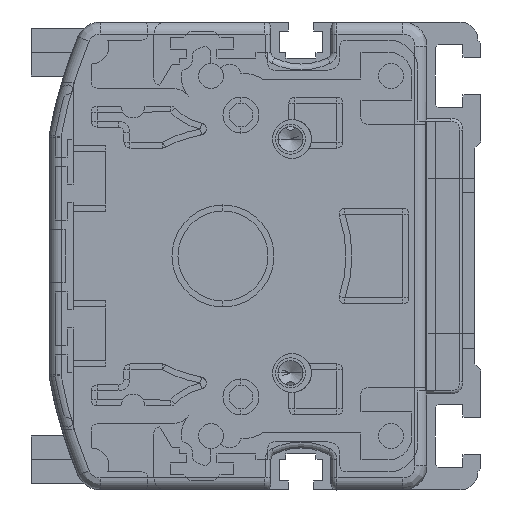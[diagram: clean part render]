
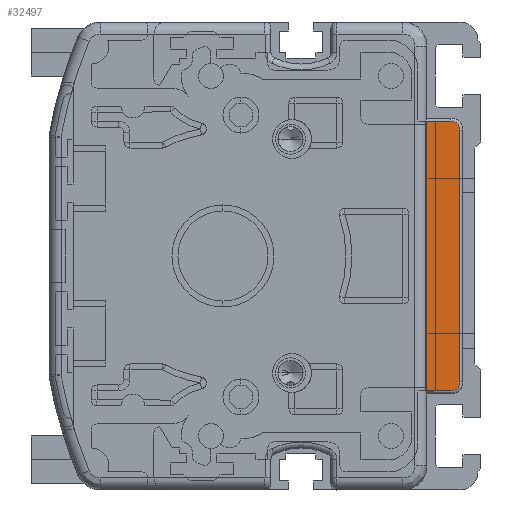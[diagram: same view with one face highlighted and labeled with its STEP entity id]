
A CAD part, left-side view. The second image highlights one B-rep face of the part: STEP entity #32497.
In plain terms, the highlighted planar face has unit normal (-1, 0, 0).
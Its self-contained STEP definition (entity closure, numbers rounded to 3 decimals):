
#27052=DIRECTION('',(0.,0.,-1.));
#27053=VECTOR('',#27052,45.);
#27054=CARTESIAN_POINT('',(-2.,9.268,22.5));
#27055=LINE('',#27054,#27053);
#27087=CARTESIAN_POINT('',(-2.,5.,21.));
#27088=DIRECTION('',(1.,0.,0.));
#27089=DIRECTION('',(0.,0.,1.));
#27090=AXIS2_PLACEMENT_3D('',#27087,#27088,#27089);
#27092=CARTESIAN_POINT('',(-2.,5.,-21.));
#27093=DIRECTION('',(1.,0.,0.));
#27094=DIRECTION('',(0.,-1.,0.));
#27095=AXIS2_PLACEMENT_3D('',#27092,#27093,#27094);
#27101=DIRECTION('',(0.,-1.,0.));
#27102=VECTOR('',#27101,4.268);
#27103=CARTESIAN_POINT('',(-2.,9.268,-22.5));
#27104=LINE('',#27103,#27102);
#27635=DIRECTION('',(0.,0.,1.));
#27636=VECTOR('',#27635,42.);
#27637=CARTESIAN_POINT('',(-2.,3.5,-21.));
#27638=LINE('',#27637,#27636);
#27658=DIRECTION('',(0.,1.,0.));
#27659=VECTOR('',#27658,4.268);
#27660=CARTESIAN_POINT('',(-2.,5.,22.5));
#27661=LINE('',#27660,#27659);
#30944=CARTESIAN_POINT('',(-2.,9.268,22.5));
#30945=CARTESIAN_POINT('',(-2.,9.268,-22.5));
#30946=VERTEX_POINT('',#30944);
#30947=VERTEX_POINT('',#30945);
#30957=CARTESIAN_POINT('',(-2.,5.,-22.5));
#30958=VERTEX_POINT('',#30957);
#30959=CARTESIAN_POINT('',(-2.,3.5,-21.));
#30960=VERTEX_POINT('',#30959);
#30961=CARTESIAN_POINT('',(-2.,3.5,21.));
#30962=VERTEX_POINT('',#30961);
#30963=CARTESIAN_POINT('',(-2.,5.,22.5));
#30964=VERTEX_POINT('',#30963);
#32479=CARTESIAN_POINT('',(-2.,6.384,0.));
#32480=DIRECTION('',(1.,0.,0.));
#32481=DIRECTION('',(0.,0.,-1.));
#32482=AXIS2_PLACEMENT_3D('',#32479,#32480,#32481);
#32483=PLANE('',#32482);
#32485=ORIENTED_EDGE('',*,*,#32484,.F.);
#32486=ORIENTED_EDGE('',*,*,#32458,.F.);
#32488=ORIENTED_EDGE('',*,*,#32487,.F.);
#32490=ORIENTED_EDGE('',*,*,#32489,.T.);
#32492=ORIENTED_EDGE('',*,*,#32491,.F.);
#32494=ORIENTED_EDGE('',*,*,#32493,.T.);
#32495=EDGE_LOOP('',(#32485,#32486,#32488,#32490,#32492,#32494));
#32496=FACE_OUTER_BOUND('',#32495,.F.);
#32497=ADVANCED_FACE('',(#32496),#32483,.F.);
#27091=CIRCLE('',#27090,1.5);
#27096=CIRCLE('',#27095,1.5);
#32458=EDGE_CURVE('',#30946,#30947,#27055,.T.);
#32484=EDGE_CURVE('',#30947,#30958,#27104,.T.);
#32487=EDGE_CURVE('',#30964,#30946,#27661,.T.);
#32489=EDGE_CURVE('',#30964,#30962,#27091,.T.);
#32491=EDGE_CURVE('',#30960,#30962,#27638,.T.);
#32493=EDGE_CURVE('',#30960,#30958,#27096,.T.);
